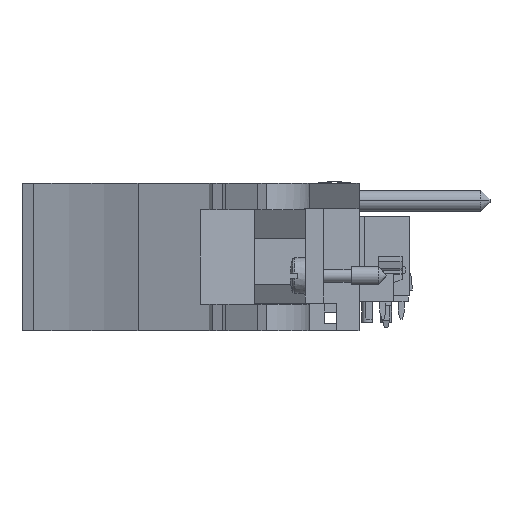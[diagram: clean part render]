
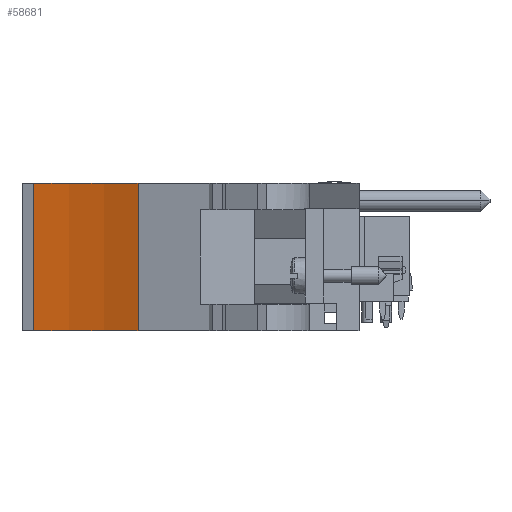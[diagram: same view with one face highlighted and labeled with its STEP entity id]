
A CAD part, front view. The second image highlights one B-rep face of the part: STEP entity #58681.
In plain terms, the highlighted cylindrical face has radius 51.46 mm (diameter 102.919 mm), a partial arc.
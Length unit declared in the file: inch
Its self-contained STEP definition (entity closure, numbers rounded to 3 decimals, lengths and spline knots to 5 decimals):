
#50218=CARTESIAN_POINT('',(-2.11733,-2.23193,0.695));
#50219=DIRECTION('',(0.,0.,1.));
#50220=DIRECTION('',(0.435,0.9,0.));
#50221=AXIS2_PLACEMENT_3D('',#50218,#50219,#50220);
#50563=CARTESIAN_POINT('',(-2.11733,-2.23193,-0.093));
#50564=DIRECTION('',(0.,0.,1.));
#50565=DIRECTION('',(0.435,0.9,0.));
#50566=AXIS2_PLACEMENT_3D('',#50563,#50564,#50565);
#50781=DIRECTION('',(0.,0.,1.));
#50782=VECTOR('',#50781,0.788);
#50783=CARTESIAN_POINT('',(-1.794,-0.23193,-0.093));
#50784=LINE('',#50783,#50782);
#50789=DIRECTION('',(0.,0.,1.));
#50790=VECTOR('',#50789,0.788);
#50791=CARTESIAN_POINT('',(-1.23603,-0.40769,-0.093));
#50792=LINE('',#50791,#50790);
#54645=CARTESIAN_POINT('',(-1.23603,-0.40769,-0.093));
#54646=CARTESIAN_POINT('',(-1.794,-0.23193,-0.093));
#54647=VERTEX_POINT('',#54645);
#54648=VERTEX_POINT('',#54646);
#54649=CARTESIAN_POINT('',(-1.23603,-0.40769,0.695));
#54650=CARTESIAN_POINT('',(-1.794,-0.23193,0.695));
#54651=VERTEX_POINT('',#54649);
#54652=VERTEX_POINT('',#54650);
#58669=CARTESIAN_POINT('',(-2.11733,-2.23193,0.695));
#58670=DIRECTION('',(0.,0.,1.));
#58671=DIRECTION('',(0.,1.,0.));
#58672=AXIS2_PLACEMENT_3D('',#58669,#58670,#58671);
#58673=CYLINDRICAL_SURFACE('',#58672,2.02597);
#58674=ORIENTED_EDGE('',*,*,#58387,.T.);
#58675=ORIENTED_EDGE('',*,*,#58661,.T.);
#58676=ORIENTED_EDGE('',*,*,#57936,.F.);
#58678=ORIENTED_EDGE('',*,*,#58677,.F.);
#58679=EDGE_LOOP('',(#58674,#58675,#58676,#58678));
#58680=FACE_OUTER_BOUND('',#58679,.F.);
#58681=ADVANCED_FACE('',(#58680),#58673,.F.);
#50222=CIRCLE('',#50221,2.02597);
#50567=CIRCLE('',#50566,2.02597);
#57936=EDGE_CURVE('',#54651,#54652,#50222,.T.);
#58387=EDGE_CURVE('',#54647,#54648,#50567,.T.);
#58661=EDGE_CURVE('',#54648,#54652,#50784,.T.);
#58677=EDGE_CURVE('',#54647,#54651,#50792,.T.);
